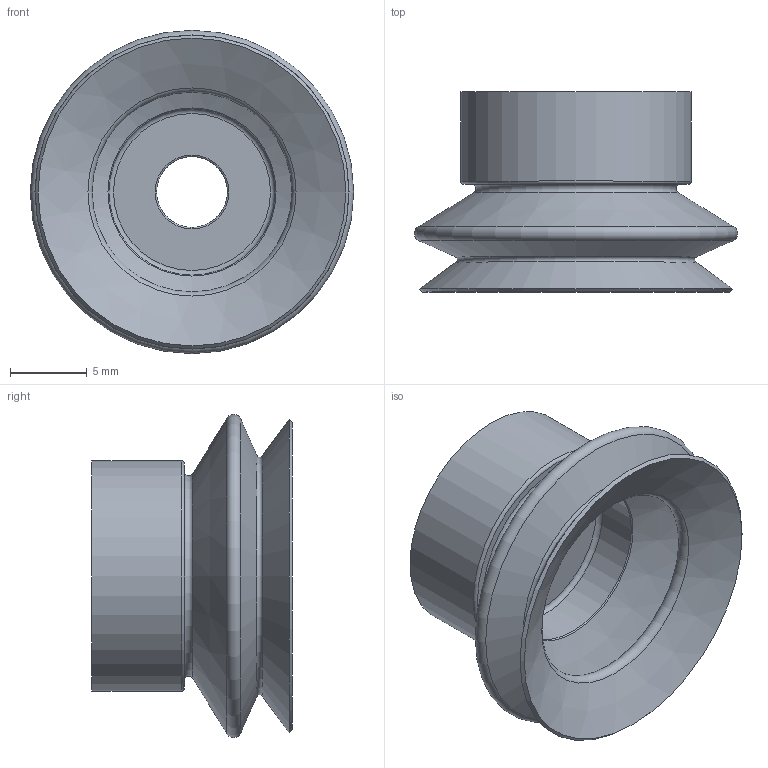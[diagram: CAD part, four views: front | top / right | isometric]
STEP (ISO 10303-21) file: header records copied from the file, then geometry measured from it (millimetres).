
FILE_DESCRIPTION(('STEP AP203'),'1');
FILE_NAME('_3D.stp','2024-06-11T23:57:59',(' '),(' '),'Spatial InterOp 3D',' ',' ');
FILE_SCHEMA(('CONFIG_CONTROL_DESIGN'));
Length unit declared in the file: millimetre
Products named in the file (1): 1
Bounding box: 21 x 13 x 21 mm (x, y, z)
Volume: 1407.7 mm3; surface area: 1928.4 mm2
Topology: 1 solids, 1 shells, 23 faces, 54 edges, 34 vertices
Faces by surface type: torus 10, cone 7, cylinder 3, plane 3
Full cylindrical faces by diameter (mm): 4.6 x1, 10.8 x1, 15 x1
Entity records: 516 total; most frequent: DIRECTION 94, CARTESIAN_POINT 71, AXIS2_PLACEMENT_3D 47, EDGE_LOOP 46, ORIENTED_EDGE 46, FACE_OUTER_BOUND 36, VERTEX_POINT 24, ADVANCED_FACE 23
